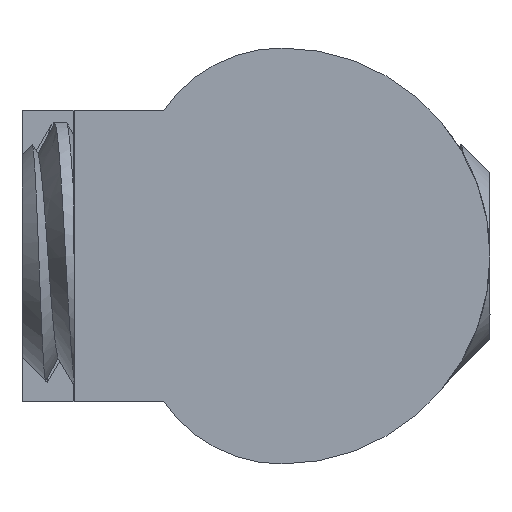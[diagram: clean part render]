
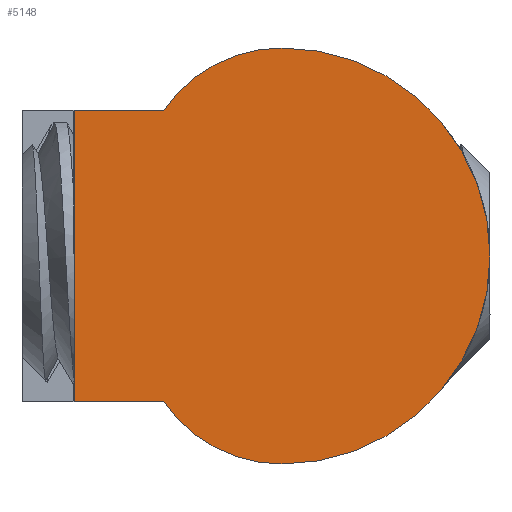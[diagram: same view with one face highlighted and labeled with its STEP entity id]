
A CAD part, left-side view. The second image highlights one B-rep face of the part: STEP entity #5148.
In plain terms, the highlighted planar face has unit normal (-1, 0, 0).
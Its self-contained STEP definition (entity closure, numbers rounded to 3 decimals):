
#94 = VERTEX_POINT ( 'NONE', #6072 ) ;
#263 = CARTESIAN_POINT ( 'NONE',  ( -12.75, 2., 0. ) ) ;
#341 = LINE ( 'NONE', #263, #8300 ) ;
#589 = CIRCLE ( 'NONE', #6266, 2. ) ;
#2590 = EDGE_CURVE ( 'NONE', #13286, #94, #9403, .T. ) ;
#2714 = DIRECTION ( 'NONE',  ( 1., 0., 0. ) ) ;
#3406 = CIRCLE ( 'NONE', #20455, 1.38 ) ;
#4018 = CARTESIAN_POINT ( 'NONE',  ( -12.75, 1.138, -1.4 ) ) ;
#4926 = LINE ( 'NONE', #8120, #12646 ) ;
#5121 = DIRECTION ( 'NONE',  ( 0., 0., -1. ) ) ;
#5148 = ADVANCED_FACE ( 'NONE', ( #8119 ), #16297, .F. ) ;
#6072 = CARTESIAN_POINT ( 'NONE',  ( -12.75, 2., -1.4 ) ) ;
#6266 = AXIS2_PLACEMENT_3D ( 'NONE', #8680, #12092, #13538 ) ;
#6627 = EDGE_CURVE ( 'NONE', #94, #20031, #341, .T. ) ;
#7673 = DIRECTION ( 'NONE',  ( 0., 0., -1. ) ) ;
#7697 = CARTESIAN_POINT ( 'NONE',  ( -12.75, 0., -1.4 ) ) ;
#7947 = ORIENTED_EDGE ( 'NONE', *, *, #19818, .F. ) ;
#8119 = FACE_OUTER_BOUND ( 'NONE', #11538, .T. ) ;
#8120 = CARTESIAN_POINT ( 'NONE',  ( -12.75, 0., 1.4 ) ) ;
#8167 = VECTOR ( 'NONE', #16993, 1000. ) ;
#8300 = VECTOR ( 'NONE', #10130, 1000. ) ;
#8547 = EDGE_CURVE ( 'NONE', #20002, #11406, #3406, .T. ) ;
#8680 = CARTESIAN_POINT ( 'NONE',  ( -12.75, 0., 0. ) ) ;
#9107 = CARTESIAN_POINT ( 'NONE',  ( -12.75, 0., 0.62 ) ) ;
#9403 = LINE ( 'NONE', #7697, #8167 ) ;
#10130 = DIRECTION ( 'NONE',  ( 0., 0., 1. ) ) ;
#11259 = CARTESIAN_POINT ( 'NONE',  ( -12.75, 0., -2. ) ) ;
#11337 = AXIS2_PLACEMENT_3D ( 'NONE', #14190, #15516, #7673 ) ;
#11406 = VERTEX_POINT ( 'NONE', #18073 ) ;
#11538 = EDGE_LOOP ( 'NONE', ( #7947, #13680, #18323, #12382, #14393, #16996 ) ) ;
#11719 = CARTESIAN_POINT ( 'NONE',  ( -12.75, 0., 0. ) ) ;
#12092 = DIRECTION ( 'NONE',  ( 1., 0., 0. ) ) ;
#12382 = ORIENTED_EDGE ( 'NONE', *, *, #15863, .F. ) ;
#12584 = VERTEX_POINT ( 'NONE', #11259 ) ;
#12646 = VECTOR ( 'NONE', #14435, 1000. ) ;
#13286 = VERTEX_POINT ( 'NONE', #4018 ) ;
#13538 = DIRECTION ( 'NONE',  ( 0., 0., -1. ) ) ;
#13680 = ORIENTED_EDGE ( 'NONE', *, *, #20104, .F. ) ;
#14190 = CARTESIAN_POINT ( 'NONE',  ( -12.75, 0., -0.62 ) ) ;
#14393 = ORIENTED_EDGE ( 'NONE', *, *, #6627, .F. ) ;
#14435 = DIRECTION ( 'NONE',  ( 0., -1., 0. ) ) ;
#14763 = CIRCLE ( 'NONE', #11337, 1.38 ) ;
#14849 = DIRECTION ( 'NONE',  ( 1., 0., 0. ) ) ;
#15516 = DIRECTION ( 'NONE',  ( 1., 0., 0. ) ) ;
#15863 = EDGE_CURVE ( 'NONE', #20031, #20002, #4926, .T. ) ;
#16297 = PLANE ( 'NONE',  #18415 ) ;
#16993 = DIRECTION ( 'NONE',  ( 0., 1., 0. ) ) ;
#16996 = ORIENTED_EDGE ( 'NONE', *, *, #2590, .F. ) ;
#17848 = CARTESIAN_POINT ( 'NONE',  ( -12.75, 1.138, 1.4 ) ) ;
#18073 = CARTESIAN_POINT ( 'NONE',  ( -12.75, 0., 2. ) ) ;
#18323 = ORIENTED_EDGE ( 'NONE', *, *, #8547, .F. ) ;
#18415 = AXIS2_PLACEMENT_3D ( 'NONE', #11719, #14849, #5121 ) ;
#18732 = DIRECTION ( 'NONE',  ( 0., 0., -1. ) ) ;
#19499 = CARTESIAN_POINT ( 'NONE',  ( -12.75, 2., 1.4 ) ) ;
#19818 = EDGE_CURVE ( 'NONE', #12584, #13286, #14763, .T. ) ;
#20002 = VERTEX_POINT ( 'NONE', #17848 ) ;
#20031 = VERTEX_POINT ( 'NONE', #19499 ) ;
#20104 = EDGE_CURVE ( 'NONE', #11406, #12584, #589, .T. ) ;
#20455 = AXIS2_PLACEMENT_3D ( 'NONE', #9107, #2714, #18732 ) ;
